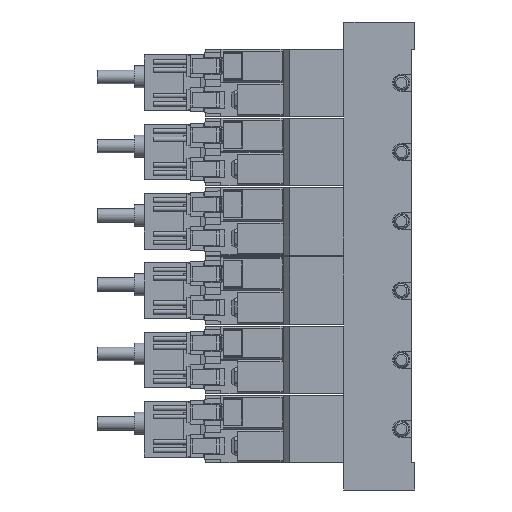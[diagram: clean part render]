
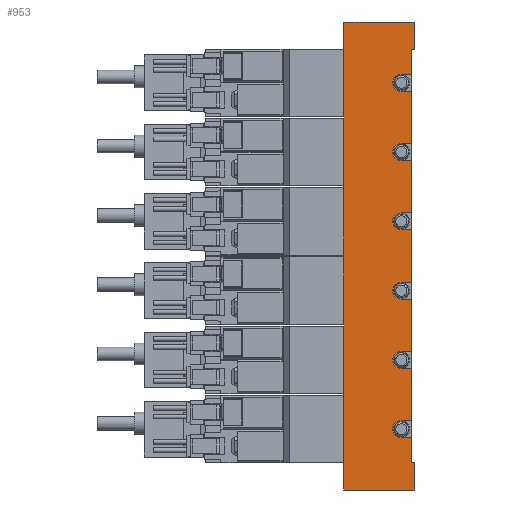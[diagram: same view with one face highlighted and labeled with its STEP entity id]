
A CAD part, left-side view. The second image highlights one B-rep face of the part: STEP entity #953.
In plain terms, the highlighted planar face has unit normal (-1, 0, 0) as drawn and (1, 0, 0) by its records, which use the part's own axes.
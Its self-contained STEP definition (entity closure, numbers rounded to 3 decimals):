
#953=ADVANCED_FACE('',(#2022),#2023,.F.);
#2022=FACE_OUTER_BOUND('',#3230,.T.);
#2023=PLANE('',#3231);
#3230=EDGE_LOOP('',(#7002,#7003,#7004,#7005,#7006,#7007,#7008,#7009,#7010,#7011,#7012,#7013,#7014,#7015,#7016,#7017,#7018,#7019,#7020,#7021,#7022,#7023,#7024,#7025,#7026,#7027,#7028,#7029,#7030,#7031,#7032,#7033));
#3231=AXIS2_PLACEMENT_3D('',#7034,#7035,#7036);
#7002=ORIENTED_EDGE('',*,*,#8656,.T.);
#7003=ORIENTED_EDGE('',*,*,#8657,.T.);
#7004=ORIENTED_EDGE('',*,*,#8658,.F.);
#7005=ORIENTED_EDGE('',*,*,#8659,.F.);
#7006=ORIENTED_EDGE('',*,*,#8643,.T.);
#7007=ORIENTED_EDGE('',*,*,#8660,.T.);
#7008=ORIENTED_EDGE('',*,*,#8615,.T.);
#7009=ORIENTED_EDGE('',*,*,#8632,.F.);
#7010=ORIENTED_EDGE('',*,*,#8661,.F.);
#7011=ORIENTED_EDGE('',*,*,#8662,.F.);
#7012=ORIENTED_EDGE('',*,*,#8611,.T.);
#7013=ORIENTED_EDGE('',*,*,#8628,.F.);
#7014=ORIENTED_EDGE('',*,*,#8663,.F.);
#7015=ORIENTED_EDGE('',*,*,#8620,.F.);
#7016=ORIENTED_EDGE('',*,*,#8607,.T.);
#7017=ORIENTED_EDGE('',*,*,#8664,.F.);
#7018=ORIENTED_EDGE('',*,*,#8654,.F.);
#7019=ORIENTED_EDGE('',*,*,#8665,.F.);
#7020=ORIENTED_EDGE('',*,*,#8604,.T.);
#7021=ORIENTED_EDGE('',*,*,#8590,.F.);
#7022=ORIENTED_EDGE('',*,*,#8545,.F.);
#7023=ORIENTED_EDGE('',*,*,#8636,.F.);
#7024=ORIENTED_EDGE('',*,*,#8601,.T.);
#7025=ORIENTED_EDGE('',*,*,#8534,.F.);
#7026=ORIENTED_EDGE('',*,*,#8666,.F.);
#7027=ORIENTED_EDGE('',*,*,#8580,.F.);
#7028=ORIENTED_EDGE('',*,*,#8599,.T.);
#7029=ORIENTED_EDGE('',*,*,#8667,.F.);
#7030=ORIENTED_EDGE('',*,*,#8668,.F.);
#7031=ORIENTED_EDGE('',*,*,#8574,.F.);
#7032=ORIENTED_EDGE('',*,*,#8597,.T.);
#7033=ORIENTED_EDGE('',*,*,#8525,.T.);
#7034=CARTESIAN_POINT('',(17.5,1.0,69.25));
#7035=DIRECTION('',(-1.0,0.0,0.0));
#7036=DIRECTION('',(0.0,0.0,1.0));
#8525=EDGE_CURVE('',#10458,#10467,#10469,.T.);
#8534=EDGE_CURVE('',#10486,#10487,#10488,.T.);
#8545=EDGE_CURVE('',#10507,#10509,#10510,.T.);
#8574=EDGE_CURVE('',#10565,#10566,#10567,.T.);
#8580=EDGE_CURVE('',#10575,#10576,#10577,.T.);
#8590=EDGE_CURVE('',#10509,#10594,#10595,.T.);
#8597=EDGE_CURVE('',#10565,#10458,#10607,.T.);
#8599=EDGE_CURVE('',#10575,#10608,#10610,.T.);
#8601=EDGE_CURVE('',#10612,#10487,#10613,.T.);
#8604=EDGE_CURVE('',#10617,#10594,#10618,.T.);
#8607=EDGE_CURVE('',#10622,#10620,#10623,.T.);
#8611=EDGE_CURVE('',#10630,#10628,#10631,.T.);
#8615=EDGE_CURVE('',#10638,#10636,#10639,.T.);
#8620=EDGE_CURVE('',#10622,#10647,#10648,.T.);
#8628=EDGE_CURVE('',#10660,#10628,#10661,.T.);
#8632=EDGE_CURVE('',#10666,#10636,#10667,.T.);
#8636=EDGE_CURVE('',#10612,#10507,#10673,.T.);
#8643=EDGE_CURVE('',#10685,#10686,#10687,.T.);
#8654=EDGE_CURVE('',#10705,#10707,#10708,.T.);
#8656=EDGE_CURVE('',#10467,#10710,#10711,.T.);
#8657=EDGE_CURVE('',#10710,#10712,#10713,.T.);
#8658=EDGE_CURVE('',#10714,#10712,#10715,.T.);
#8659=EDGE_CURVE('',#10685,#10714,#10716,.T.);
#8660=EDGE_CURVE('',#10686,#10638,#10717,.T.);
#8661=EDGE_CURVE('',#10718,#10666,#10719,.T.);
#8662=EDGE_CURVE('',#10630,#10718,#10720,.T.);
#8663=EDGE_CURVE('',#10647,#10660,#10721,.T.);
#8664=EDGE_CURVE('',#10707,#10620,#10722,.T.);
#8665=EDGE_CURVE('',#10617,#10705,#10723,.T.);
#8666=EDGE_CURVE('',#10576,#10486,#10724,.T.);
#8667=EDGE_CURVE('',#10725,#10608,#10726,.T.);
#8668=EDGE_CURVE('',#10566,#10725,#10727,.T.);
#10458=VERTEX_POINT('',#13642);
#10467=VERTEX_POINT('',#13655);
#10469=LINE('',#13658,#13659);
#10486=VERTEX_POINT('',#13679);
#10487=VERTEX_POINT('',#13680);
#10488=LINE('',#13681,#13682);
#10507=VERTEX_POINT('',#13708);
#10509=VERTEX_POINT('',#13711);
#10510=CIRCLE('',#13712,2.5);
#10565=VERTEX_POINT('',#13988);
#10566=VERTEX_POINT('',#13989);
#10567=LINE('',#13990,#13991);
#10575=VERTEX_POINT('',#14002);
#10576=VERTEX_POINT('',#14003);
#10577=LINE('',#14004,#14005);
#10594=VERTEX_POINT('',#14026);
#10595=LINE('',#14027,#14028);
#10607=LINE('',#14043,#14044);
#10608=VERTEX_POINT('',#14045);
#10610=LINE('',#14048,#14049);
#10612=VERTEX_POINT('',#14052);
#10613=LINE('',#14053,#14054);
#10617=VERTEX_POINT('',#14060);
#10618=LINE('',#14061,#14062);
#10620=VERTEX_POINT('',#14065);
#10622=VERTEX_POINT('',#14068);
#10623=LINE('',#14069,#14070);
#10628=VERTEX_POINT('',#14077);
#10630=VERTEX_POINT('',#14080);
#10631=LINE('',#14081,#14082);
#10636=VERTEX_POINT('',#14089);
#10638=VERTEX_POINT('',#14092);
#10639=LINE('',#14093,#14094);
#10647=VERTEX_POINT('',#14104);
#10648=LINE('',#14105,#14106);
#10660=VERTEX_POINT('',#14122);
#10661=LINE('',#14123,#14124);
#10666=VERTEX_POINT('',#14131);
#10667=LINE('',#14132,#14133);
#10673=LINE('',#14142,#14143);
#10685=VERTEX_POINT('',#14157);
#10686=VERTEX_POINT('',#14158);
#10687=LINE('',#14159,#14160);
#10705=VERTEX_POINT('',#14182);
#10707=VERTEX_POINT('',#14185);
#10708=CIRCLE('',#14186,2.5);
#10710=VERTEX_POINT('',#14189);
#10711=LINE('',#14190,#14191);
#10712=VERTEX_POINT('',#14192);
#10713=LINE('',#14193,#14194);
#10714=VERTEX_POINT('',#14195);
#10715=LINE('',#14196,#14197);
#10716=LINE('',#14198,#14199);
#10717=LINE('',#14200,#14201);
#10718=VERTEX_POINT('',#14202);
#10719=CIRCLE('',#14203,2.5);
#10720=LINE('',#14204,#14205);
#10721=CIRCLE('',#14206,2.5);
#10722=LINE('',#14207,#14208);
#10723=LINE('',#14209,#14210);
#10724=CIRCLE('',#14211,2.5);
#10725=VERTEX_POINT('',#14212);
#10726=LINE('',#14213,#14214);
#10727=CIRCLE('',#14215,2.5);
#13642=CARTESIAN_POINT('',(17.5,1.0,-61.25));
#13655=CARTESIAN_POINT('',(17.5,0.0,-61.25));
#13658=CARTESIAN_POINT('',(17.5,4.0,-61.25));
#13659=VECTOR('',#15624,1.0);
#13679=CARTESIAN_POINT('',(17.5,4.0,-28.25));
#13680=CARTESIAN_POINT('',(17.5,1.0,-28.25));
#13681=CARTESIAN_POINT('',(17.5,1.0,-28.25));
#13682=VECTOR('',#15643,1.0);
#13708=CARTESIAN_POINT('',(17.5,4.0,-12.75));
#13711=CARTESIAN_POINT('',(17.5,4.0,-7.75));
#13712=AXIS2_PLACEMENT_3D('',#15658,#15659,#15660);
#13988=CARTESIAN_POINT('',(17.5,1.0,-53.75));
#13989=CARTESIAN_POINT('',(17.5,4.0,-53.75));
#13990=CARTESIAN_POINT('',(17.5,1.0,-53.75));
#13991=VECTOR('',#15728,1.0);
#14002=CARTESIAN_POINT('',(17.5,1.0,-33.25));
#14003=CARTESIAN_POINT('',(17.5,4.0,-33.25));
#14004=CARTESIAN_POINT('',(17.5,1.0,-33.25));
#14005=VECTOR('',#15738,1.0);
#14026=CARTESIAN_POINT('',(17.5,1.0,-7.75));
#14027=CARTESIAN_POINT('',(17.5,1.0,-7.75));
#14028=VECTOR('',#15758,1.0);
#14043=CARTESIAN_POINT('',(17.5,1.0,69.25));
#14044=VECTOR('',#15771,1.0);
#14045=CARTESIAN_POINT('',(17.5,1.0,-48.75));
#14048=CARTESIAN_POINT('',(17.5,1.0,69.25));
#14049=VECTOR('',#15773,1.0);
#14052=CARTESIAN_POINT('',(17.5,1.0,-12.75));
#14053=CARTESIAN_POINT('',(17.5,1.0,69.25));
#14054=VECTOR('',#15775,1.0);
#14060=CARTESIAN_POINT('',(17.5,1.0,7.75));
#14061=CARTESIAN_POINT('',(17.5,1.0,69.25));
#14062=VECTOR('',#15778,1.0);
#14065=CARTESIAN_POINT('',(17.5,1.0,12.75));
#14068=CARTESIAN_POINT('',(17.5,1.0,28.25));
#14069=CARTESIAN_POINT('',(17.5,1.0,69.25));
#14070=VECTOR('',#15781,1.0);
#14077=CARTESIAN_POINT('',(17.5,1.0,33.25));
#14080=CARTESIAN_POINT('',(17.5,1.0,48.75));
#14081=CARTESIAN_POINT('',(17.5,1.0,69.25));
#14082=VECTOR('',#15785,1.0);
#14089=CARTESIAN_POINT('',(17.5,1.0,53.75));
#14092=CARTESIAN_POINT('',(17.5,1.0,61.25));
#14093=CARTESIAN_POINT('',(17.5,1.0,69.25));
#14094=VECTOR('',#15789,1.0);
#14104=CARTESIAN_POINT('',(17.5,4.0,28.25));
#14105=CARTESIAN_POINT('',(17.5,1.0,28.25));
#14106=VECTOR('',#15798,1.0);
#14122=CARTESIAN_POINT('',(17.5,4.0,33.25));
#14123=CARTESIAN_POINT('',(17.5,1.0,33.25));
#14124=VECTOR('',#15812,1.0);
#14131=CARTESIAN_POINT('',(17.5,4.0,53.75));
#14132=CARTESIAN_POINT('',(17.5,1.0,53.75));
#14133=VECTOR('',#15818,1.0);
#14142=CARTESIAN_POINT('',(17.5,1.0,-12.75));
#14143=VECTOR('',#15822,1.0);
#14157=CARTESIAN_POINT('',(17.5,0.0,69.25));
#14158=CARTESIAN_POINT('',(17.5,0.0,61.25));
#14159=CARTESIAN_POINT('',(17.5,0.0,69.25));
#14160=VECTOR('',#15837,1.0);
#14182=CARTESIAN_POINT('',(17.5,4.0,7.75));
#14185=CARTESIAN_POINT('',(17.5,4.0,12.75));
#14186=AXIS2_PLACEMENT_3D('',#15858,#15859,#15860);
#14189=CARTESIAN_POINT('',(17.5,0.0,-69.25));
#14190=CARTESIAN_POINT('',(17.5,0.0,-61.25));
#14191=VECTOR('',#15862,1.0);
#14192=CARTESIAN_POINT('',(17.5,21.0,-69.25));
#14193=CARTESIAN_POINT('',(17.5,1.0,-69.25));
#14194=VECTOR('',#15863,1.0);
#14195=CARTESIAN_POINT('',(17.5,21.0,69.25));
#14196=CARTESIAN_POINT('',(17.5,21.0,69.25));
#14197=VECTOR('',#15864,1.0);
#14198=CARTESIAN_POINT('',(17.5,1.0,69.25));
#14199=VECTOR('',#15865,1.0);
#14200=CARTESIAN_POINT('',(17.5,0.0,61.25));
#14201=VECTOR('',#15866,1.0);
#14202=CARTESIAN_POINT('',(17.5,4.0,48.75));
#14203=AXIS2_PLACEMENT_3D('',#15867,#15868,#15869);
#14204=CARTESIAN_POINT('',(17.5,1.0,48.75));
#14205=VECTOR('',#15870,1.0);
#14206=AXIS2_PLACEMENT_3D('',#15871,#15872,#15873);
#14207=CARTESIAN_POINT('',(17.5,1.0,12.75));
#14208=VECTOR('',#15874,1.0);
#14209=CARTESIAN_POINT('',(17.5,1.0,7.75));
#14210=VECTOR('',#15875,1.0);
#14211=AXIS2_PLACEMENT_3D('',#15876,#15877,#15878);
#14212=CARTESIAN_POINT('',(17.5,4.0,-48.75));
#14213=CARTESIAN_POINT('',(17.5,1.0,-48.75));
#14214=VECTOR('',#15879,1.0);
#14215=AXIS2_PLACEMENT_3D('',#15880,#15881,#15882);
#15624=DIRECTION('',(0.0,-1.0,0.0));
#15643=DIRECTION('',(0.0,-1.0,0.0));
#15658=CARTESIAN_POINT('',(17.5,4.0,-10.25));
#15659=DIRECTION('',(1.0,0.0,-0.0));
#15660=DIRECTION('',(0.0,0.0,1.0));
#15728=DIRECTION('',(0.0,1.0,0.0));
#15738=DIRECTION('',(0.0,1.0,0.0));
#15758=DIRECTION('',(0.0,-1.0,0.0));
#15771=DIRECTION('',(0.0,0.0,-1.0));
#15773=DIRECTION('',(0.0,0.0,-1.0));
#15775=DIRECTION('',(0.0,0.0,-1.0));
#15778=DIRECTION('',(0.0,0.0,-1.0));
#15781=DIRECTION('',(0.0,0.0,-1.0));
#15785=DIRECTION('',(0.0,0.0,-1.0));
#15789=DIRECTION('',(0.0,0.0,-1.0));
#15798=DIRECTION('',(0.0,1.0,0.0));
#15812=DIRECTION('',(0.0,-1.0,0.0));
#15818=DIRECTION('',(0.0,-1.0,0.0));
#15822=DIRECTION('',(0.0,1.0,0.0));
#15837=DIRECTION('',(0.0,0.0,-1.0));
#15858=CARTESIAN_POINT('',(17.5,4.0,10.25));
#15859=DIRECTION('',(1.0,0.0,-0.0));
#15860=DIRECTION('',(0.0,0.0,1.0));
#15862=DIRECTION('',(0.0,0.0,-1.0));
#15863=DIRECTION('',(0.0,1.0,0.0));
#15864=DIRECTION('',(0.0,0.0,-1.0));
#15865=DIRECTION('',(0.0,1.0,0.0));
#15866=DIRECTION('',(0.0,1.0,0.0));
#15867=CARTESIAN_POINT('',(17.5,4.0,51.25));
#15868=DIRECTION('',(1.0,0.0,-0.0));
#15869=DIRECTION('',(0.0,0.0,1.0));
#15870=DIRECTION('',(0.0,1.0,0.0));
#15871=CARTESIAN_POINT('',(17.5,4.0,30.75));
#15872=DIRECTION('',(1.0,0.0,-0.0));
#15873=DIRECTION('',(0.0,0.0,1.0));
#15874=DIRECTION('',(0.0,-1.0,0.0));
#15875=DIRECTION('',(0.0,1.0,0.0));
#15876=CARTESIAN_POINT('',(17.5,4.0,-30.75));
#15877=DIRECTION('',(1.0,0.0,-0.0));
#15878=DIRECTION('',(0.0,0.0,1.0));
#15879=DIRECTION('',(0.0,-1.0,0.0));
#15880=CARTESIAN_POINT('',(17.5,4.0,-51.25));
#15881=DIRECTION('',(1.0,0.0,-0.0));
#15882=DIRECTION('',(0.0,0.0,1.0));
